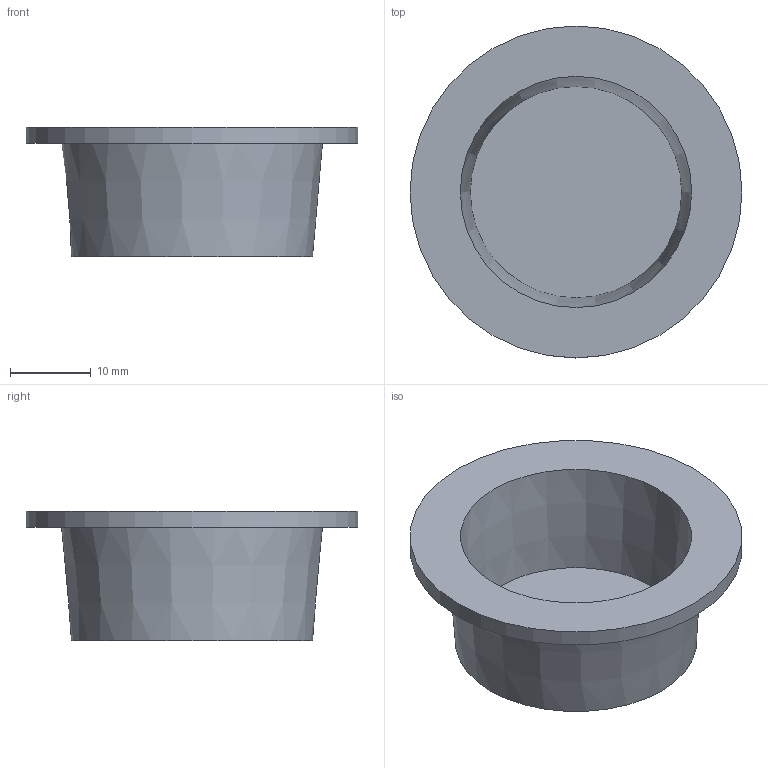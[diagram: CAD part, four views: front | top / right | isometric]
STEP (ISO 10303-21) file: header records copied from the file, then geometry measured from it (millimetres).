
FILE_DESCRIPTION( ('This file contains a STEP AP42 implementation' ,'as created by ZW3D STEP Interface translator.') ,'2;1' );
FILE_NAME( 'OGWm-1.stp' ,'26 817.1316 3', (''), ('ZWCAD Software Co.'), 'Version 1.0', 'ZW3D to STEP translator', '' );
FILE_SCHEMA(('AP242_MANAGED_MODEL_BASED_3D_ENGINEERING_MIM_LF { 1 0 10303 442 1 1 4 }'));
Length unit declared in the file: millimetre
Products named in the file (1): 0
Bounding box: 41 x 41 x 16 mm (x, y, z)
Volume: 4991.5 mm3; surface area: 5249.1 mm2
Topology: 1 solids, 1 shells, 7 faces, 9 edges, 6 vertices
Faces by surface type: plane 4, cone 2, cylinder 1
Full cylindrical faces by diameter (mm): 41 x1
Entity records: 176 total; most frequent: DIRECTION 31, CARTESIAN_POINT 23, ORIENTED_EDGE 18, AXIS2_PLACEMENT_3D 14, EDGE_CURVE 9, EDGE_LOOP 9, FACE_OUTER_BOUND 7, ADVANCED_FACE 7
